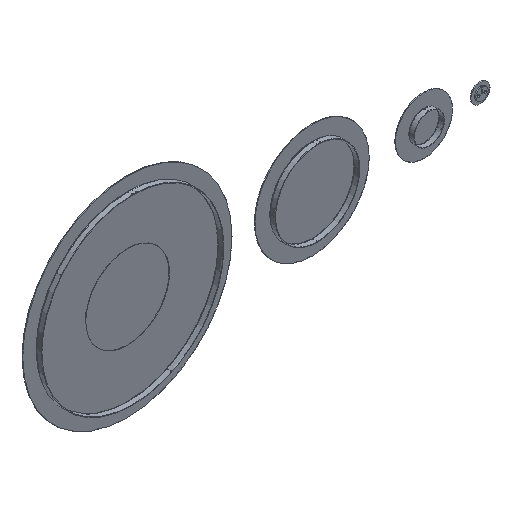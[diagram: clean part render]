
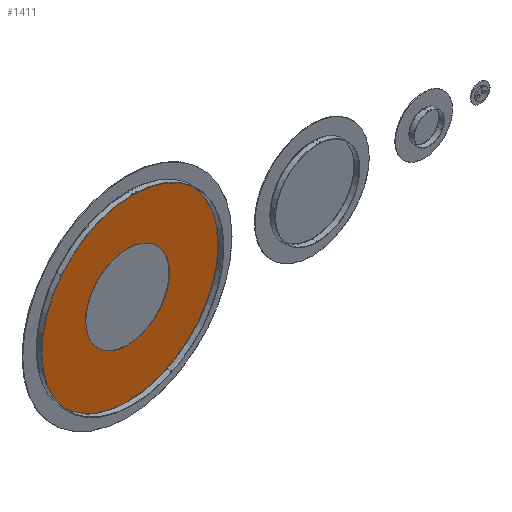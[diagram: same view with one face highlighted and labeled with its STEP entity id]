
A CAD part, isometric view. The second image highlights one B-rep face of the part: STEP entity #1411.
In plain terms, the highlighted planar face has unit normal (0, -1, 0).
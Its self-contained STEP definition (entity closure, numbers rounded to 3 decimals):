
#138=FACE_BOUND('',#377,.T.);
#267=PLANE('',#1640);
#297=FACE_OUTER_BOUND('',#376,.T.);
#376=EDGE_LOOP('',(#1016));
#377=EDGE_LOOP('',(#1017));
#650=CIRCLE('',#1634,220.);
#653=CIRCLE('',#1639,477.);
#690=VERTEX_POINT('',#2136);
#693=VERTEX_POINT('',#2145);
#814=EDGE_CURVE('',#690,#690,#650,.T.);
#818=EDGE_CURVE('',#693,#693,#653,.T.);
#1016=ORIENTED_EDGE('',*,*,#818,.T.);
#1017=ORIENTED_EDGE('',*,*,#814,.T.);
#1411=ADVANCED_FACE('',(#297,#138),#267,.F.);
#1634=AXIS2_PLACEMENT_3D('',#2137,#1807,#1808);
#1639=AXIS2_PLACEMENT_3D('',#2146,#1818,#1819);
#1640=AXIS2_PLACEMENT_3D('',#2148,#1821,#1822);
#1807=DIRECTION('center_axis',(0.,1.,0.));
#1808=DIRECTION('ref_axis',(-1.,0.,0.));
#1818=DIRECTION('center_axis',(0.,-1.,0.));
#1819=DIRECTION('ref_axis',(-1.,0.,0.));
#1821=DIRECTION('center_axis',(0.,1.,0.));
#1822=DIRECTION('ref_axis',(-1.,0.,0.));
#2136=CARTESIAN_POINT('',(-1635.96,-5.5,0.));
#2137=CARTESIAN_POINT('Origin',(-1855.96,-5.5,0.));
#2145=CARTESIAN_POINT('',(-1378.96,-5.5,0.));
#2146=CARTESIAN_POINT('Origin',(-1855.96,-5.5,0.));
#2148=CARTESIAN_POINT('Origin',(-1855.96,-5.5,0.));
